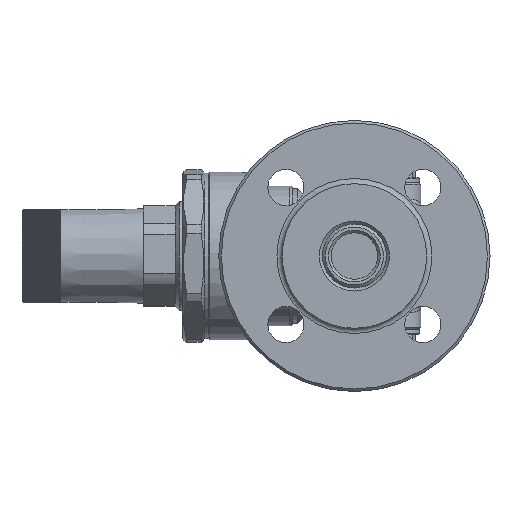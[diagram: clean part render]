
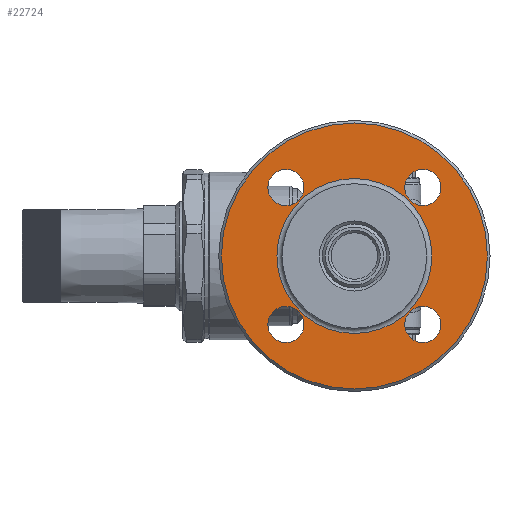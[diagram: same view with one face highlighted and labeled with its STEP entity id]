
A CAD part, left-side view. The second image highlights one B-rep face of the part: STEP entity #22724.
In plain terms, the highlighted planar face has unit normal (-1, 0, 0).
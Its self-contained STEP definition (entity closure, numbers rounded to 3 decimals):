
#1448=FACE_BOUND('',#3919,.T.);
#1449=FACE_BOUND('',#3920,.T.);
#1450=FACE_BOUND('',#3921,.T.);
#1451=FACE_BOUND('',#3922,.T.);
#1452=FACE_BOUND('',#3923,.T.);
#1533=PLANE('',#24266);
#2482=FACE_OUTER_BOUND('',#3918,.T.);
#3918=EDGE_LOOP('',(#15690));
#3919=EDGE_LOOP('',(#15691));
#3920=EDGE_LOOP('',(#15692));
#3921=EDGE_LOOP('',(#15693));
#3922=EDGE_LOOP('',(#15694));
#3923=EDGE_LOOP('',(#15695));
#8429=CIRCLE('',#24138,7.);
#8431=CIRCLE('',#24141,7.);
#8433=CIRCLE('',#24144,7.);
#8435=CIRCLE('',#24147,7.);
#8495=CIRCLE('',#24263,51.5);
#8497=CIRCLE('',#24267,30.);
#9533=VERTEX_POINT('',#33144);
#9535=VERTEX_POINT('',#33150);
#9537=VERTEX_POINT('',#33156);
#9539=VERTEX_POINT('',#33162);
#9639=VERTEX_POINT('',#33573);
#9641=VERTEX_POINT('',#33581);
#11780=EDGE_CURVE('',#9533,#9533,#8429,.T.);
#11783=EDGE_CURVE('',#9535,#9535,#8431,.T.);
#11786=EDGE_CURVE('',#9537,#9537,#8433,.T.);
#11789=EDGE_CURVE('',#9539,#9539,#8435,.T.);
#11931=EDGE_CURVE('',#9639,#9639,#8495,.T.);
#11934=EDGE_CURVE('',#9641,#9641,#8497,.T.);
#15690=ORIENTED_EDGE('',*,*,#11931,.F.);
#15691=ORIENTED_EDGE('',*,*,#11934,.F.);
#15692=ORIENTED_EDGE('',*,*,#11789,.T.);
#15693=ORIENTED_EDGE('',*,*,#11786,.T.);
#15694=ORIENTED_EDGE('',*,*,#11783,.T.);
#15695=ORIENTED_EDGE('',*,*,#11780,.T.);
#22724=ADVANCED_FACE('',(#2482,#1448,#1449,#1450,#1451,#1452),#1533,.T.);
#24138=AXIS2_PLACEMENT_3D('',#33146,#26675,#26676);
#24141=AXIS2_PLACEMENT_3D('',#33152,#26682,#26683);
#24144=AXIS2_PLACEMENT_3D('',#33158,#26689,#26690);
#24147=AXIS2_PLACEMENT_3D('',#33164,#26696,#26697);
#24263=AXIS2_PLACEMENT_3D('',#33575,#26990,#26991);
#24266=AXIS2_PLACEMENT_3D('',#33580,#26997,#26998);
#24267=AXIS2_PLACEMENT_3D('',#33582,#26999,#27000);
#26675=DIRECTION('center_axis',(1.,0.,0.));
#26676=DIRECTION('ref_axis',(0.,0.,
1.));
#26682=DIRECTION('center_axis',(1.,0.,0.));
#26683=DIRECTION('ref_axis',(0.,1.,0.));
#26689=DIRECTION('center_axis',(1.,0.,0.));
#26690=DIRECTION('ref_axis',(0.,-1.,0.));
#26696=DIRECTION('center_axis',(1.,0.,0.));
#26697=DIRECTION('ref_axis',(0.,0.,
-1.));
#26990=DIRECTION('center_axis',(1.,0.,0.));
#26991=DIRECTION('ref_axis',(0.,0.,
-1.));
#26997=DIRECTION('center_axis',(-1.,0.,0.));
#26998=DIRECTION('ref_axis',(0.,0.,
-1.));
#26999=DIRECTION('center_axis',(-1.,0.,0.));
#27000=DIRECTION('ref_axis',(0.,0.,
-1.));
#33144=CARTESIAN_POINT('',(-73.5,53.517,-33.517));
#33146=CARTESIAN_POINT('Origin',(-73.5,53.517,-26.517));
#33150=CARTESIAN_POINT('',(-73.5,-6.517,-26.517));
#33152=CARTESIAN_POINT('Origin',(-73.5,0.483,-26.517));
#33156=CARTESIAN_POINT('',(-73.5,60.517,26.517));
#33158=CARTESIAN_POINT('Origin',(-73.5,53.517,26.517));
#33162=CARTESIAN_POINT('',(-73.5,0.483,33.517));
#33164=CARTESIAN_POINT('Origin',(-73.5,0.483,26.517));
#33573=CARTESIAN_POINT('',(-73.5,27.,51.5));
#33575=CARTESIAN_POINT('Origin',(-73.5,27.,0.));
#33580=CARTESIAN_POINT('Origin',(-73.5,27.,0.));
#33581=CARTESIAN_POINT('',(-73.5,27.,30.));
#33582=CARTESIAN_POINT('Origin',(-73.5,27.,0.));
